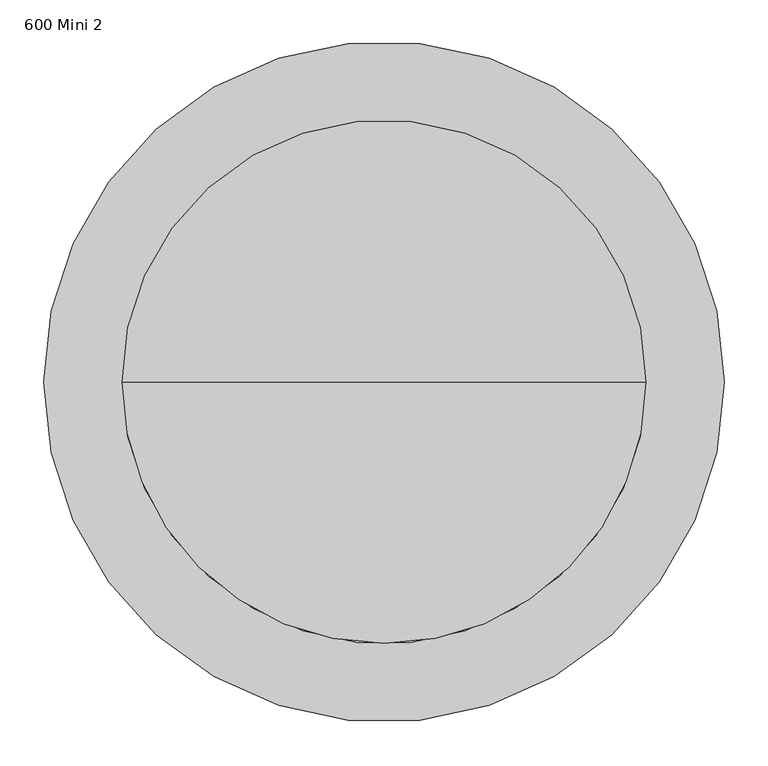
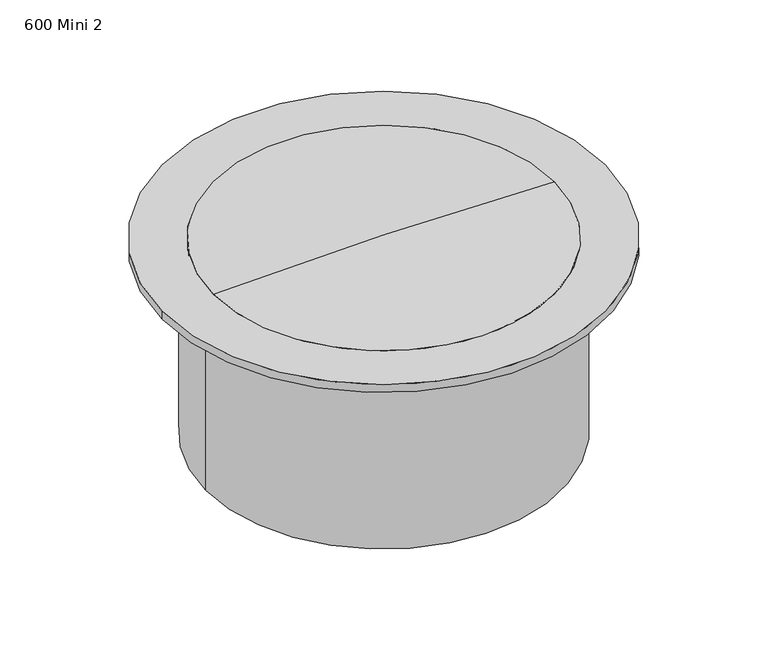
"""IFC4 building model written with IfcOpenShell, lengths in millimetres: proxy geometry, GRAF Tele Dome 600 Mini : 600 Mini 2."""

from ifc_helpers import new_model, si_unit, point, frame, origin, origin_2d, place, context, project, spatial, polyline, circle_curve, ellipse_curve, trimmed, segment, composite_curve, outline, extrude, source, transform, mapped, element, save
from ifc_brep_helpers import plane_surface, cylinder_surface, revolved_surface, advanced_brep


def proxy_600_mini_2_8c9d897d(model_context):
    return source(origin(), model_context, "Body", "SolidModel", [
        advanced_brep(
        [(0.0, 0.0, -14.9500624), (-300.0, 0.0, -14.9500624), (300.0, 0.0, -14.9500624), (300.0, 0.0, 0.0), (-300.0, 0.0, 0.0), (0.0, 0.0, 6.1740495)],
        [
            (0, 1),
            (1, 2, circle_curve(frame((0.0, 0.0, -14.9500624), z_axis=(0.0, 0.0, -1.0), x_axis=(-1.0, 0.0, 0.0)), 300.0)),
            (2, 0),
            (2, 1, circle_curve(frame((0.0, 0.0, -14.9500624), z_axis=(0.0, 0.0, -1.0), x_axis=(-1.0, 0.0, 0.0)), 300.0)),
            (3, 4, circle_curve(frame((0.0, 0.0, 0.0), z_axis=(0.0, 0.0, 1.0), x_axis=(-1.0, 0.0, 0.0)), 300.0)),
            (4, 5, circle_curve(frame((0.0, 0.0, -7285.4842816), z_axis=(0.0, 1.0, 0.0), x_axis=(1.0, 0.0, 0.0)), 7291.6583311)),
            (5, 3, circle_curve(frame((0.0, 0.0, -7285.4842816), z_axis=(0.0, 1.0, 0.0), x_axis=(-1.0, 0.0, 0.0)), 7291.6583311)),
            (4, 3, circle_curve(frame((0.0, 0.0, 0.0), z_axis=(0.0, 0.0, 1.0), x_axis=(-1.0, 0.0, 0.0)), 300.0)),
            (1, 4),
            (3, 2),
        ],
        [
            plane_surface(frame((0.0, 0.0, -14.9500624), z_axis=(0.0, 0.0, -1.0), x_axis=(-1.0, 0.0, 0.0))),
            revolved_surface(trimmed(ellipse_curve(frame((0.0, 0.0, -7285.4842816), z_axis=(0.0, -1.0, 0.0), x_axis=(1.0, 0.0, 0.0)), 7291.6583311, 7291.6583311), [point((0.0, 0.0, 6.1740495))], [point((-300.0, 0.0, 0.0))], True, "CARTESIAN"), (0.0, 0.0, -119.9500624), (0.0, 0.0, -1.0)),
            cylinder_surface(frame((0.0, 0.0, -119.9500624), z_axis=(0.0, 0.0, -1.0), x_axis=(-1.0, 0.0, 0.0)), 300.0),
        ],
        [
            (0, [[1, 2, 3]]),
            (0, [[-3, 4, -1]]),
            (1, [[5, 6, 7]]),
            (1, [[8, -7, -6]]),
            (2, [[-2, 9, -5, 10]]),
            (2, [[-4, -10, -8, -9]]),
        ],
    ),
        extrude(outline(composite_curve([segment(trimmed(circle_curve(origin_2d(), 313.0), [point((-313.0, 0.0))], [point((313.0, 0.0))], False, "CARTESIAN"), True, "CONTINUOUS"), segment(trimmed(circle_curve(origin_2d(), 313.0), [point((313.0, 0.0))], [point((-313.0, 0.0))], False, "CARTESIAN"), True, "CONTINUOUS")], self_intersect=False), holes=[composite_curve([segment(trimmed(circle_curve(origin_2d(), 300.0), [point((-300.0, 0.0))], [point((300.0, 0.0))], True, "CARTESIAN"), True, "CONTINUOUS"), segment(trimmed(circle_curve(origin_2d(), 300.0), [point((300.0, 0.0))], [point((-300.0, 0.0))], True, "CARTESIAN"), True, "CONTINUOUS")], self_intersect=False)]), frame((0.0, 0.0, -360.0), z_axis=(0.0, 0.0, 1.0), x_axis=(1.0, 0.0, 0.0)), (0.0, 0.0, 1.0), 345.0499376),
        extrude(outline(composite_curve([segment(trimmed(circle_curve(origin_2d(), 390.0), [point((-390.0, 0.0))], [point((390.0, 0.0))], False, "CARTESIAN"), True, "CONTINUOUS"), segment(trimmed(circle_curve(origin_2d(), 390.0), [point((390.0, 0.0))], [point((-390.0, 0.0))], False, "CARTESIAN"), True, "CONTINUOUS")], self_intersect=False), holes=[composite_curve([segment(trimmed(circle_curve(origin_2d(), 300.0), [point((-300.0, 0.0))], [point((300.0, 0.0))], True, "CARTESIAN"), True, "CONTINUOUS"), segment(trimmed(circle_curve(origin_2d(), 300.0), [point((300.0, 0.0))], [point((-300.0, 0.0))], True, "CARTESIAN"), True, "CONTINUOUS")], self_intersect=False)]), frame((0.0, 0.0, -14.9500624), z_axis=(0.0, 0.0, 1.0), x_axis=(1.0, 0.0, 0.0)), (0.0, 0.0, 1.0), 14.9500624),
        extrude(outline(polyline([(-42.0990731, 0.0), (0.0, 0.0), (-42.0990731, -57.1373839), (-42.0990731, 0.0)])), frame((298.912638, -92.9797552, -57.0491355), z_axis=(0.2817325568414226, 0.9594929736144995, 0.0), x_axis=(0.0, 0.0, -1.0)), (0.0, 0.0, 1.0), 10.0),
        extrude(outline(polyline([(-42.0990731, 0.0), (0.0, 0.0), (-42.0990731, -57.137384), (-42.0990731, 0.0)])), frame((260.6091517, -173.4268435, -57.0491355), z_axis=(0.5406408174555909, 0.8412535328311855, 0.0), x_axis=(0.0, 0.0, -1.0)), (0.0, 0.0, 1.0), 10.0),
        extrude(outline(polyline([(-42.0990731, 0.0), (0.0, 0.0), (-42.0990731, -57.137384), (-42.0990731, 0.0)])), frame((201.1926619, -239.8239204, -57.0491355), z_axis=(0.7557495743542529, 0.6548607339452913, 0.0), x_axis=(0.0, 0.0, -1.0)), (0.0, 0.0, 1.0), 10.0),
        extrude(outline(polyline([(-42.0990731, 0.0), (0.0, 0.0), (-42.0990731, -57.137384), (-42.0990731, 0.0)])), frame((125.4767391, -286.7918896, -57.0491355), z_axis=(0.9096319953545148, 0.4154150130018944, 0.0), x_axis=(0.0, 0.0, -1.0)), (0.0, 0.0, 1.0), 10.0),
        extrude(outline(polyline([(-42.0990731, 0.0), (0.0, 0.0), (-42.0990731, -57.137384), (-42.0990731, 0.0)])), frame((39.5954372, -310.5256855, -57.0491355), z_axis=(0.9898214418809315, 0.1423148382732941, 0.0), x_axis=(0.0, 0.0, -1.0)), (0.0, 0.0, 1.0), 10.0),
        extrude(outline(polyline([(42.0990731, 0.0), (42.0990731, -57.137384), (0.0, 0.0), (42.0990731, 0.0)])), frame((-39.5954372, -310.5256855, -57.0491355), z_axis=(-0.9898214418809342, 0.14231483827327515, 0.0), x_axis=(0.0, 0.0, 1.0)), (0.0, 0.0, 1.0), 10.0),
        extrude(outline(polyline([(42.0990731, 0.0), (42.0990731, -57.137384), (0.0, 0.0), (42.0990731, 0.0)])), frame((-125.4767391, -286.7918896, -57.0491355), z_axis=(-0.9096319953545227, 0.41541501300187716, 0.0), x_axis=(0.0, 0.0, 1.0)), (0.0, 0.0, 1.0), 10.0),
        extrude(outline(polyline([(42.0990731, 0.0), (42.0990731, -57.137384), (0.0, 0.0), (42.0990731, 0.0)])), frame((-201.1926619, -239.8239204, -57.0491355), z_axis=(-0.7557495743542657, 0.6548607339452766, 0.0), x_axis=(0.0, 0.0, 1.0)), (0.0, 0.0, 1.0), 10.0),
        extrude(outline(polyline([(42.0990731, 0.0), (42.0990731, -57.137384), (0.0, 0.0), (42.0990731, 0.0)])), frame((-260.6091517, -173.4268435, -57.0491355), z_axis=(-0.5406408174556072, 0.8412535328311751, 0.0), x_axis=(0.0, 0.0, 1.0)), (0.0, 0.0, 1.0), 10.0),
        extrude(outline(polyline([(42.0990731, 0.0), (42.0990731, -57.1373839), (0.0, 0.0), (42.0990731, 0.0)])), frame((-298.912638, -92.9797552, -57.0491355), z_axis=(-0.28173255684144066, 0.9594929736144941, 0.0), x_axis=(0.0, 0.0, 1.0)), (0.0, 0.0, 1.0), 10.0),
        extrude(outline(polyline([(0.0, 0.0), (0.0, -42.0990731), (-57.137384, 0.0), (0.0, 0.0)])), frame((301.7299635, 83.3848254, -14.9500624), z_axis=(-0.2817325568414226, 0.9594929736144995, 0.0), x_axis=(-0.9594929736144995, -0.2817325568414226, 0.0)), (0.0, 0.0, 1.0), 10.0),
        extrude(outline(polyline([(0.0, 0.0), (0.0, -42.0990731), (-57.137384, 0.0), (0.0, 0.0)])), frame((266.0155599, 165.0143082, -14.9500624), z_axis=(-0.5406408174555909, 0.8412535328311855, 0.0), x_axis=(-0.8412535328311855, -0.5406408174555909, 0.0)), (0.0, 0.0, 1.0), 10.0),
        extrude(outline(polyline([(0.0, 0.0), (0.0, -42.0990731), (-57.137384, 0.0), (0.0, 0.0)])), frame((208.7501576, 233.2753131, -14.9500624), z_axis=(-0.7557495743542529, 0.6548607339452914, 0.0), x_axis=(-0.6548607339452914, -0.7557495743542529, 0.0)), (0.0, 0.0, 1.0), 10.0),
        extrude(outline(polyline([(0.0, 0.0), (0.0, -42.0990731), (-57.137384, 0.0), (0.0, 0.0)])), frame((134.573059, 282.6377395, -14.9500624), z_axis=(-0.9096319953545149, 0.4154150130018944, 0.0), x_axis=(-0.4154150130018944, -0.9096319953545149, 0.0)), (0.0, 0.0, 1.0), 10.0),
        extrude(outline(polyline([(0.0, 0.0), (0.0, -42.0990731), (-57.137384, 0.0), (0.0, 0.0)])), frame((49.4936516, 309.1025371, -14.9500624), z_axis=(-0.9898214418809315, 0.1423148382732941, 0.0), x_axis=(-0.1423148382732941, -0.9898214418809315, 0.0)), (0.0, 0.0, 1.0), 10.0),
        extrude(outline(polyline([(0.0, 0.0), (57.137384, 0.0), (0.0, -42.0990731), (0.0, 0.0)])), frame((-49.4936516, 309.1025371, -14.9500624), z_axis=(0.9898214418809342, 0.14231483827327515, 0.0), x_axis=(-0.14231483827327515, 0.9898214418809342, 0.0)), (0.0, 0.0, 1.0), 10.0),
        extrude(outline(polyline([(0.0, 0.0), (57.137384, 0.0), (0.0, -42.0990731), (0.0, 0.0)])), frame((-134.573059, 282.6377395, -14.9500624), z_axis=(0.9096319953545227, 0.4154150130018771, 0.0), x_axis=(-0.4154150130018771, 0.9096319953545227, 0.0)), (0.0, 0.0, 1.0), 10.0),
        extrude(outline(polyline([(0.0, 0.0), (57.137384, 0.0), (0.0, -42.0990731), (0.0, 0.0)])), frame((-208.7501576, 233.2753131, -14.9500624), z_axis=(0.7557495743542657, 0.6548607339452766, 0.0), x_axis=(-0.6548607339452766, 0.7557495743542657, 0.0)), (0.0, 0.0, 1.0), 10.0),
        extrude(outline(polyline([(0.0, 0.0), (57.137384, 0.0), (0.0, -42.0990731), (0.0, 0.0)])), frame((-266.0155599, 165.0143082, -14.9500624), z_axis=(0.5406408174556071, 0.841253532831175, 0.0), x_axis=(-0.841253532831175, 0.5406408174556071, 0.0)), (0.0, 0.0, 1.0), 10.0),
        extrude(outline(polyline([(0.0, 0.0), (57.137384, 0.0), (0.0, -42.0990731), (0.0, 0.0)])), frame((-301.7299635, 83.3848254, -14.9500624), z_axis=(0.2817325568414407, 0.9594929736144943, 0.0), x_axis=(-0.9594929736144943, 0.2817325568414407, 0.0)), (0.0, 0.0, 1.0), 10.0),
        extrude(outline(polyline([(-14.9500624, 313.0), (-57.0491355, 313.0), (-14.9500624, 370.137384), (-14.9500624, 313.0)])), frame((0.0, -5.0, 0.0), z_axis=(0.0, 1.0, 0.0), x_axis=(0.0, 0.0, 1.0)), (0.0, 0.0, 1.0), 10.0),
        extrude(outline(polyline([(-14.9500624, -313.0), (-14.9500624, -370.137384), (-57.0491355, -313.0), (-14.9500624, -313.0)])), frame((0.0, -5.0, 0.0), z_axis=(0.0, 1.0, 0.0), x_axis=(0.0, 0.0, 1.0)), (0.0, 0.0, 1.0), 10.0),
    ])


if __name__ == "__main__":
    model = new_model("IFC4")
    model_context = context("Model", 3, world=origin())
    ifc_project = project(units=[si_unit("LENGTHUNIT", "METRE", prefix="MILLI")], contexts=[model_context])
    site = spatial("IfcSite", under=ifc_project)
    building = spatial("IfcBuilding", under=site)
    placement = place(None, origin())
    proxy_600_mini_2_shape = proxy_600_mini_2_8c9d897d(model_context)
    element("IfcBuildingElementProxy", 1, Name="GRAF Tele Dome 600 Mini : 600 Mini 2", ObjectType="GRAF Tele Dome 600 Mini : 600 Mini 2", at=placement, inside=building, context=model_context, shape_type="MappedRepresentation", body=[
        mapped(proxy_600_mini_2_shape, transform((0.0, 0.0, 0.0), x_axis=(1.0, 0.0, 0.0), y_axis=(0.0, 1.0, 0.0), z_axis=(0.0, 0.0, 1.0))),
    ])
    save(model, "model.ifc")
